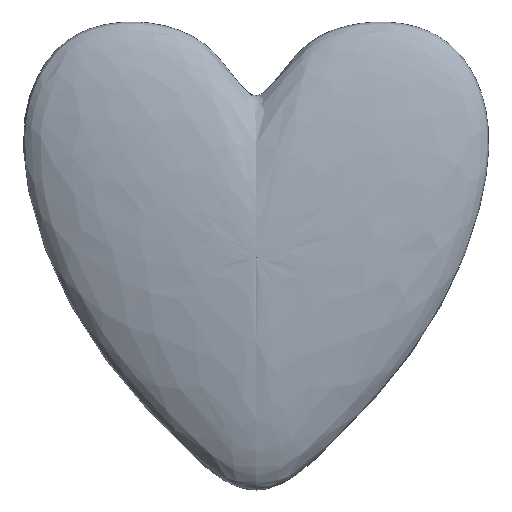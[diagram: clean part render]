
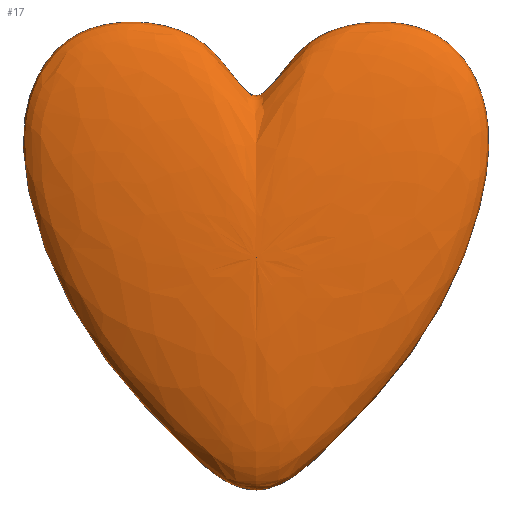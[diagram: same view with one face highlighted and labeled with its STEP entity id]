
A CAD part, top view. The second image highlights one B-rep face of the part: STEP entity #17.
In plain terms, the highlighted free-form (B-spline) face has degree [3, 2] with [21, 3] control points.
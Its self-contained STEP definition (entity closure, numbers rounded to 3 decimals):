
#17 = ADVANCED_FACE('',(#18),#32,.F.);
#18 = FACE_BOUND('',#19,.F.);
#19 = EDGE_LOOP('',(#20,#109,#141));
#20 = ORIENTED_EDGE('',*,*,#21,.F.);
#21 = EDGE_CURVE('',#22,#24,#26,.T.);
#22 = VERTEX_POINT('',#23);
#23 = CARTESIAN_POINT('',(140.3,40.,0.));
#24 = VERTEX_POINT('',#25);
#25 = CARTESIAN_POINT('',(140.3,140.,20.));
#26 = SEAM_CURVE('',#27,(#31,#102),.PCURVE_S1.);
#27 = ( BOUNDED_CURVE() B_SPLINE_CURVE(2,(#28,#29,#30),.UNSPECIFIED.,.F.
,.F.) B_SPLINE_CURVE_WITH_KNOTS((3,3),(0.,6.135),
.PIECEWISE_BEZIER_KNOTS.) CURVE() GEOMETRIC_REPRESENTATION_ITEM() 
RATIONAL_B_SPLINE_CURVE((1.,0.677,1.)) REPRESENTATION_ITEM('') 
  );
#28 = CARTESIAN_POINT('',(140.3,40.,0.));
#29 = CARTESIAN_POINT('',(140.3,40.,20.));
#30 = CARTESIAN_POINT('',(140.3,140.,20.));
#31 = PCURVE('',#32,#96);
#32 = ( BOUNDED_SURFACE() B_SPLINE_SURFACE(3,2,(
    (#33,#34,#35)
    ,(#36,#37,#38)
    ,(#39,#40,#41)
    ,(#42,#43,#44)
    ,(#45,#46,#47)
    ,(#48,#49,#50)
    ,(#51,#52,#53)
    ,(#54,#55,#56)
    ,(#57,#58,#59)
    ,(#60,#61,#62)
    ,(#63,#64,#65)
    ,(#66,#67,#68)
    ,(#69,#70,#71)
    ,(#72,#73,#74)
    ,(#75,#76,#77)
    ,(#78,#79,#80)
    ,(#81,#82,#83)
    ,(#84,#85,#86)
    ,(#87,#88,#89)
    ,(#90,#91,#92)
    ,(#93,#94,#95
)),.UNSPECIFIED.,.T.,.F.,.F.) B_SPLINE_SURFACE_WITH_KNOTS((1,3,1,1,1,1,1
    ,1,1,3,1,1,1,1,1,1,1,3,1),(3,3),(-9.,-8.,-7.,-6.,-5.,-4.,-3.,-2.,-1.
    ,0.,1.,2.,3.,4.,5.,6.,7.,8.,9.),(0.,6.135),
.UNSPECIFIED.) GEOMETRIC_REPRESENTATION_ITEM() RATIONAL_B_SPLINE_SURFACE
((
    (1.,0.677,1.)
    ,(1.,0.677,1.)
    ,(1.,0.677,1.)
    ,(1.,0.677,1.)
    ,(1.,0.677,1.)
    ,(1.,0.677,1.)
    ,(1.,0.677,1.)
    ,(1.,0.677,1.)
    ,(1.,0.677,1.)
    ,(1.,0.677,1.)
    ,(1.,0.677,1.)
    ,(1.,0.677,1.)
    ,(1.,0.677,1.)
    ,(1.,0.677,1.)
    ,(1.,0.677,1.)
    ,(1.,0.677,1.)
    ,(1.,0.677,1.)
    ,(1.,0.677,1.)
    ,(1.,0.677,1.)
    ,(1.,0.677,1.)
,(1.,0.677,1.))) REPRESENTATION_ITEM('') SURFACE() );
#33 = CARTESIAN_POINT('',(140.3,40.,0.));
#34 = CARTESIAN_POINT('',(140.3,40.,20.));
#35 = CARTESIAN_POINT('',(140.3,140.,20.));
#36 = CARTESIAN_POINT('',(127.887,40.,0.));
#37 = CARTESIAN_POINT('',(127.887,40.,20.));
#38 = CARTESIAN_POINT('',(140.3,140.,20.));
#39 = CARTESIAN_POINT('',(105.372,61.884,0.));
#40 = CARTESIAN_POINT('',(105.372,61.884,20.));
#41 = CARTESIAN_POINT('',(140.3,140.,20.));
#42 = CARTESIAN_POINT('',(77.287,91.695,0.));
#43 = CARTESIAN_POINT('',(77.287,91.695,20.));
#44 = CARTESIAN_POINT('',(140.3,140.,20.));
#45 = CARTESIAN_POINT('',(55.187,126.692,0.));
#46 = CARTESIAN_POINT('',(55.187,126.692,20.));
#47 = CARTESIAN_POINT('',(140.3,140.,20.));
#48 = CARTESIAN_POINT('',(41.628,164.179,0.));
#49 = CARTESIAN_POINT('',(41.628,164.179,20.));
#50 = CARTESIAN_POINT('',(140.3,140.,20.));
#51 = CARTESIAN_POINT('',(37.034,206.57,0.));
#52 = CARTESIAN_POINT('',(37.034,206.57,20.));
#53 = CARTESIAN_POINT('',(140.3,140.,20.));
#54 = CARTESIAN_POINT('',(60.767,245.43,0.));
#55 = CARTESIAN_POINT('',(60.767,245.43,20.));
#56 = CARTESIAN_POINT('',(140.3,140.,20.));
#57 = CARTESIAN_POINT('',(123.261,241.111,0.));
#58 = CARTESIAN_POINT('',(123.261,241.111,20.));
#59 = CARTESIAN_POINT('',(140.3,140.,20.));
#60 = CARTESIAN_POINT('',(133.574,210.,0.));
#61 = CARTESIAN_POINT('',(133.574,210.,20.));
#62 = CARTESIAN_POINT('',(140.3,140.,20.));
#63 = CARTESIAN_POINT('',(140.3,210.,0.));
#64 = CARTESIAN_POINT('',(140.3,210.,20.));
#65 = CARTESIAN_POINT('',(140.3,140.,20.));
#66 = CARTESIAN_POINT('',(147.025,210.,0.));
#67 = CARTESIAN_POINT('',(147.025,210.,20.));
#68 = CARTESIAN_POINT('',(140.3,140.,20.));
#69 = CARTESIAN_POINT('',(157.338,241.111,0.));
#70 = CARTESIAN_POINT('',(157.338,241.111,20.));
#71 = CARTESIAN_POINT('',(140.3,140.,20.));
#72 = CARTESIAN_POINT('',(219.832,245.43,0.));
#73 = CARTESIAN_POINT('',(219.832,245.43,20.));
#74 = CARTESIAN_POINT('',(140.3,140.,20.));
#75 = CARTESIAN_POINT('',(243.565,206.57,0.));
#76 = CARTESIAN_POINT('',(243.565,206.57,20.));
#77 = CARTESIAN_POINT('',(140.3,140.,20.));
#78 = CARTESIAN_POINT('',(238.971,164.179,0.));
#79 = CARTESIAN_POINT('',(238.971,164.179,20.));
#80 = CARTESIAN_POINT('',(140.3,140.,20.));
#81 = CARTESIAN_POINT('',(225.412,126.692,0.));
#82 = CARTESIAN_POINT('',(225.412,126.692,20.));
#83 = CARTESIAN_POINT('',(140.3,140.,20.));
#84 = CARTESIAN_POINT('',(203.312,91.695,0.));
#85 = CARTESIAN_POINT('',(203.312,91.695,20.));
#86 = CARTESIAN_POINT('',(140.3,140.,20.));
#87 = CARTESIAN_POINT('',(175.227,61.884,0.));
#88 = CARTESIAN_POINT('',(175.227,61.884,20.));
#89 = CARTESIAN_POINT('',(140.3,140.,20.));
#90 = CARTESIAN_POINT('',(152.712,40.,0.));
#91 = CARTESIAN_POINT('',(152.712,40.,20.));
#92 = CARTESIAN_POINT('',(140.3,140.,20.));
#93 = CARTESIAN_POINT('',(140.3,40.,0.));
#94 = CARTESIAN_POINT('',(140.3,40.,20.));
#95 = CARTESIAN_POINT('',(140.3,140.,20.));
#96 = DEFINITIONAL_REPRESENTATION('',(#97),#101);
#97 = LINE('',#98,#99);
#98 = CARTESIAN_POINT('',(-8.,0.));
#99 = VECTOR('',#100,1.);
#100 = DIRECTION('',(0.,1.));
#101 = ( GEOMETRIC_REPRESENTATION_CONTEXT(2) 
PARAMETRIC_REPRESENTATION_CONTEXT() REPRESENTATION_CONTEXT('2D SPACE',''
  ) );
#102 = PCURVE('',#32,#103);
#103 = DEFINITIONAL_REPRESENTATION('',(#104),#108);
#104 = LINE('',#105,#106);
#105 = CARTESIAN_POINT('',(8.,0.));
#106 = VECTOR('',#107,1.);
#107 = DIRECTION('',(0.,1.));
#108 = ( GEOMETRIC_REPRESENTATION_CONTEXT(2) 
PARAMETRIC_REPRESENTATION_CONTEXT() REPRESENTATION_CONTEXT('2D SPACE',''
  ) );
#109 = ORIENTED_EDGE('',*,*,#110,.T.);
#110 = EDGE_CURVE('',#22,#22,#111,.T.);
#111 = SURFACE_CURVE('',#112,(#134),.PCURVE_S1.);
#112 = B_SPLINE_CURVE_WITH_KNOTS('',3,(#113,#114,#115,#116,#117,#118,
    #119,#120,#121,#122,#123,#124,#125,#126,#127,#128,#129,#130,#131,
    #132,#133),.UNSPECIFIED.,.T.,.F.,(1,3,1,1,1,1,1,1,1,3,1,1,1,1,1,1,1,
    3,1),(-9.,-8.,-7.,-6.,-5.,-4.,-3.,-2.,-1.,0.,1.,2.,3.,4.,5.,6.
    ,7.,8.,9.),.UNSPECIFIED.);
#113 = CARTESIAN_POINT('',(140.3,40.,0.));
#114 = CARTESIAN_POINT('',(127.887,40.,0.));
#115 = CARTESIAN_POINT('',(105.372,61.884,0.));
#116 = CARTESIAN_POINT('',(77.287,91.695,0.));
#117 = CARTESIAN_POINT('',(55.187,126.692,0.));
#118 = CARTESIAN_POINT('',(41.628,164.179,0.));
#119 = CARTESIAN_POINT('',(37.034,206.57,0.));
#120 = CARTESIAN_POINT('',(60.767,245.43,0.));
#121 = CARTESIAN_POINT('',(123.261,241.111,0.));
#122 = CARTESIAN_POINT('',(133.574,210.,0.));
#123 = CARTESIAN_POINT('',(140.3,210.,0.));
#124 = CARTESIAN_POINT('',(147.025,210.,0.));
#125 = CARTESIAN_POINT('',(157.338,241.111,0.));
#126 = CARTESIAN_POINT('',(219.832,245.43,0.));
#127 = CARTESIAN_POINT('',(243.565,206.57,0.));
#128 = CARTESIAN_POINT('',(238.971,164.179,0.));
#129 = CARTESIAN_POINT('',(225.412,126.692,0.));
#130 = CARTESIAN_POINT('',(203.312,91.695,0.));
#131 = CARTESIAN_POINT('',(175.227,61.884,0.));
#132 = CARTESIAN_POINT('',(152.712,40.,0.));
#133 = CARTESIAN_POINT('',(140.3,40.,0.));
#134 = PCURVE('',#32,#135);
#135 = DEFINITIONAL_REPRESENTATION('',(#136),#140);
#136 = LINE('',#137,#138);
#137 = CARTESIAN_POINT('',(0.,0.));
#138 = VECTOR('',#139,1.);
#139 = DIRECTION('',(1.,0.));
#140 = ( GEOMETRIC_REPRESENTATION_CONTEXT(2) 
PARAMETRIC_REPRESENTATION_CONTEXT() REPRESENTATION_CONTEXT('2D SPACE',''
  ) );
#141 = ORIENTED_EDGE('',*,*,#21,.T.);
